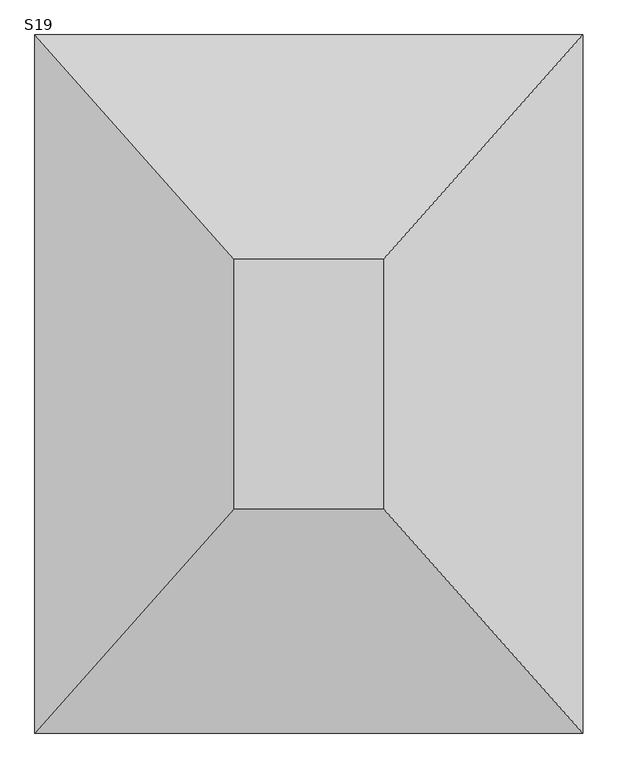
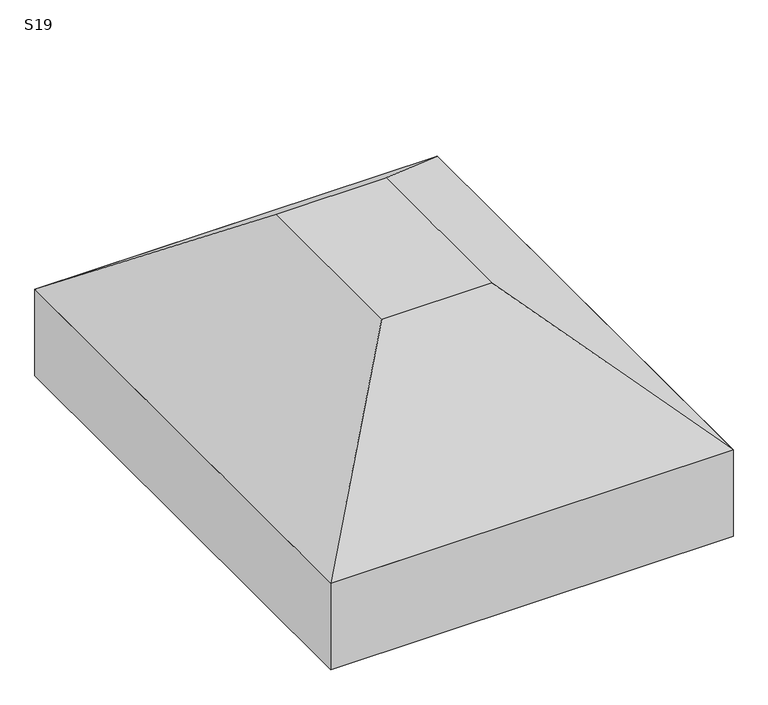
"""IFC4 building model written with IfcOpenShell, lengths in millimetres: fastener geometry, TQS - Sapata : S19."""

import ifcopenshell
import ifcopenshell.guid

model = None  # the IFC model being written
_history = None  # IfcOwnerHistory: only IFC2X3 demands one
_inside = {}  # id of a spatial element -> (the spatial element, [elements in it])
_under = {}  # id of a project, library or spatial element -> (it, [spatial elements below it])
_declared = {}  # id of a project -> (the project, [libraries it declares])
_typed = {}  # id of a type object -> (the type object, [elements of that type])
_made_of = {}  # id of a material, layer set ... -> (it, [elements and type objects made of it])


def new_model(schema):
    """Start an empty IFC model of exactly this schema.

    Asked for "IFC4X3", IfcOpenShell would pick the latest addendum, in which some entities
    have other attributes; the version numbers below select the first issue.
    IFC2X3 requires an IfcOwnerHistory on every rooted entity: one is made here for all.
    """
    global model, _history
    if schema == "IFC4X3":
        model = ifcopenshell.file(schema_version=(4, 3, 0, 0))
    else:
        model = ifcopenshell.file(schema=schema)
    _inside.clear()
    _under.clear()
    _declared.clear()
    _typed.clear()
    _made_of.clear()
    _history = None
    if model.schema == "IFC2X3":
        org = make("IfcOrganization", Name="unknown")
        user = make(
            "IfcPersonAndOrganization",
            ThePerson=make("IfcPerson", FamilyName="unknown"),
            TheOrganization=org,
        )
        app = make(
            "IfcApplication",
            ApplicationDeveloper=org,
            Version="unknown",
            ApplicationFullName="unknown",
            ApplicationIdentifier="unknown",
        )
        _history = make(
            "IfcOwnerHistory",
            OwningUser=user,
            OwningApplication=app,
            ChangeAction="ADDED",
            CreationDate=0,
        )
    return model


def make(cls, **values):
    """One entity of the class cls with the attributes given. An attribute that is None is left unset."""
    return model.create_entity(
        cls, **{name: value for name, value in values.items() if value is not None}
    )


def rooted(cls, **values):
    """An entity with a GlobalId (a new one), such as an element, a storey or a relation."""
    return make(cls, GlobalId=ifcopenshell.guid.new(), OwnerHistory=_history, **values)


def si_unit(unit_type, name, prefix=None):
    """IfcSIUnit, for example si_unit("LENGTHUNIT", "METRE", prefix="MILLI")."""
    return make("IfcSIUnit", UnitType=unit_type, Prefix=prefix, Name=name)


def assignment(units):
    """IfcUnitAssignment: the units of a project."""
    return None if units is None else make("IfcUnitAssignment", Units=units)


def point(xyz):
    """IfcCartesianPoint."""
    return None if xyz is None else make("IfcCartesianPoint", Coordinates=xyz)


def direction(xyz):
    """IfcDirection."""
    return None if xyz is None else make("IfcDirection", DirectionRatios=xyz)


def frame(location, z_axis=None, x_axis=None):
    """IfcAxis2Placement3D, a coordinate frame: its origin and axes. An axis left out is left unset."""
    return make(
        "IfcAxis2Placement3D",
        Location=point(location),
        Axis=direction(z_axis),
        RefDirection=direction(x_axis),
    )


def origin():
    """The frame at (0, 0, 0) with its axes left unset."""
    return frame((0.0, 0.0, 0.0))


def place(relative_to, where):
    """IfcLocalPlacement: puts the frame where relative to a parent placement (None: the world)."""
    return make(
        "IfcLocalPlacement", PlacementRelTo=relative_to, RelativePlacement=where
    )


def context(
    kind, dimensions, precision=None, world=None, true_north=None, identifier=None
):
    """IfcGeometricRepresentationContext, for example the 3D "Model" context."""
    return make(
        "IfcGeometricRepresentationContext",
        ContextIdentifier=identifier,
        ContextType=kind,
        CoordinateSpaceDimension=dimensions,
        Precision=precision,
        WorldCoordinateSystem=world,
        TrueNorth=true_north,
    )


def project(units=None, contexts=None):
    """IfcProject with its units and contexts."""
    return rooted(
        "IfcProject",
        Name="project",
        RepresentationContexts=contexts,
        UnitsInContext=assignment(units),
    )


def spatial(cls, under=None, at=None, **own):
    """A site, building, storey or space (cls), placed at a placement, below another one or the project."""
    s = rooted(cls, ObjectPlacement=at, **own)
    if under is not None:
        _under.setdefault(under.id(), (under, []))[1].append(s)
    return s


def polyline(points):
    """IfcPolyline through the points."""
    return make("IfcPolyline", Points=[point(p) for p in points])


def outline(outer, holes=None, kind="AREA"):
    """IfcArbitraryClosedProfileDef: a profile drawn as a closed curve; with holes, ...WithVoids."""
    if holes is None:
        return make("IfcArbitraryClosedProfileDef", ProfileType=kind, OuterCurve=outer)
    return make(
        "IfcArbitraryProfileDefWithVoids",
        ProfileType=kind,
        OuterCurve=outer,
        InnerCurves=holes,
    )


def extrude(swept, where, along, depth):
    """IfcExtrudedAreaSolid: the profile swept, set in the frame where, extruded along a direction by depth."""
    return make(
        "IfcExtrudedAreaSolid",
        SweptArea=swept,
        Position=where,
        ExtrudedDirection=direction(along),
        Depth=depth,
    )


def faces_of(points, faces, orient=None, outer=None):
    """IfcFace entities. A face is a list of loops; a loop is a list of indices into points, from 0.

    orient and outer hold one flag for each loop. By default every Orientation is true, the
    first loop of a face is its IfcFaceOuterBound and the others are IfcFaceBound.
    """
    made = []
    for i, loops in enumerate(faces):
        bounds = []
        for j, loop in enumerate(loops):
            is_outer = j == 0 if outer is None else outer[i][j]
            bounds.append(
                make(
                    "IfcFaceOuterBound" if is_outer else "IfcFaceBound",
                    Bound=make("IfcPolyLoop", Polygon=[points[k] for k in loop]),
                    Orientation=True if orient is None else orient[i][j],
                )
            )
        made.append(make("IfcFace", Bounds=bounds))
    return made


def faceted_brep(points, faces, orient=None, outer=None, voids=None):
    """IfcFacetedBrep: a solid bounded by flat faces; with voids (closed shells), ...WithVoids."""
    shared = [point(p) for p in points]
    hull = make("IfcClosedShell", CfsFaces=faces_of(shared, faces, orient, outer))
    if voids is None:
        return make("IfcFacetedBrep", Outer=hull)
    return make(
        "IfcFacetedBrepWithVoids",
        Outer=hull,
        Voids=[
            make(cls, CfsFaces=faces_of(shared, fs, o, b)) for cls, fs, o, b in voids
        ],
    )


def shape(context_of_items, identifier, shape_type, items):
    """IfcShapeRepresentation: the items that make up one representation, for example the "Body"."""
    return make(
        "IfcShapeRepresentation",
        ContextOfItems=context_of_items,
        RepresentationIdentifier=identifier,
        RepresentationType=shape_type,
        Items=items,
    )


def source(mapping_origin, context_of_items, identifier, shape_type, items):
    """IfcRepresentationMap: a shape defined once, which mapped items show again and again."""
    return make(
        "IfcRepresentationMap",
        MappingOrigin=mapping_origin,
        MappedRepresentation=shape(context_of_items, identifier, shape_type, items),
    )


def transform(
    local_origin,
    x_axis=None,
    y_axis=None,
    z_axis=None,
    scale=None,
    scale2=None,
    scale3=None,
    uniform=True,
):
    """IfcCartesianTransformationOperator3D, or its non-uniform kind. x_axis, y_axis, z_axis: its Axis1, 2, 3."""
    if uniform:
        return make(
            "IfcCartesianTransformationOperator3D",
            Axis1=direction(x_axis),
            Axis2=direction(y_axis),
            LocalOrigin=point(local_origin),
            Scale=scale,
            Axis3=direction(z_axis),
        )
    return make(
        "IfcCartesianTransformationOperator3DnonUniform",
        Axis1=direction(x_axis),
        Axis2=direction(y_axis),
        LocalOrigin=point(local_origin),
        Scale=scale,
        Axis3=direction(z_axis),
        Scale2=scale2,
        Scale3=scale3,
    )


def mapped(mapping_source, mapping_target):
    """IfcMappedItem: shows the shape of a source again, moved by a transform."""
    return make(
        "IfcMappedItem", MappingSource=mapping_source, MappingTarget=mapping_target
    )


def made_of(thing, what):
    """Note that an element or type object is made of a material, layer set ...; save() writes the relation."""
    if what is not None:
        _made_of.setdefault(what.id(), (what, []))[1].append(thing)
    return thing


def element(
    cls,
    number,
    at=None,
    inside=None,
    cuts=None,
    type_object=None,
    material=None,
    context=None,
    identifier="Body",
    shape_type=None,
    held_by="IfcProductDefinitionShape",
    body=None,
    shapes=None,
    **own,
):
    """One element of the class cls, such as IfcWall. Its Tag is "e" and its number.

    at: its placement. inside: the storey or other place that contains it. cuts: it is an
    opening in that element (IfcRelVoidsElement). A single representation is given by context,
    identifier, shape_type and body (its items); several are given by shapes. held_by: the class
    of the entity that holds the representations. save() writes the other relations.
    """
    e = rooted(cls, Tag="e%d" % number, ObjectPlacement=at, **own)
    if body is not None:
        shapes = [shape(context, identifier, shape_type, body)]
    if shapes is not None:
        e.Representation = make(held_by, Representations=shapes)
    if inside is not None:
        _inside.setdefault(inside.id(), (inside, []))[1].append(e)
    if cuts is not None:
        rooted(
            "IfcRelVoidsElement", RelatingBuildingElement=cuts, RelatedOpeningElement=e
        )
    if type_object is not None:
        _typed.setdefault(type_object.id(), (type_object, []))[1].append(e)
    return made_of(e, material)


def aggregate(whole, parts):
    """IfcRelAggregates: a whole, such as a stair, and the parts it consists of."""
    return rooted("IfcRelAggregates", RelatingObject=whole, RelatedObjects=parts)


def save(model, path):
    """Write the relations noted so far, then the file.

    IfcRelAggregates (storeys below a building ...), IfcRelContainedInSpatialStructure (elements
    in a storey), IfcRelDefinesByType, IfcRelAssociatesMaterial and IfcRelDeclares: one each for
    every whole, place, type object, material and project.
    """
    for whole, parts in _under.values():
        aggregate(whole, parts)
    for where, things in _inside.values():
        rooted(
            "IfcRelContainedInSpatialStructure",
            RelatedElements=things,
            RelatingStructure=where,
        )
    for kind, things in _typed.values():
        rooted("IfcRelDefinesByType", RelatedObjects=things, RelatingType=kind)
    for what, things in _made_of.values():
        rooted("IfcRelAssociatesMaterial", RelatedObjects=things, RelatingMaterial=what)
    for by, libraries in _declared.values():
        rooted("IfcRelDeclares", RelatingContext=by, RelatedDefinitions=libraries)
    model.write(path)


def s19_11b22e92(model_context):
    return source(origin(), model_context, "Body", "SolidModel", [
        faceted_brep([(-50.0, 50.0, 0.0), (-350.0, 50.0, 0.0), (-350.0, -450.0, 0.0), (-50.0, -450.0, 0.0), (350.0, 500.0, -350.0), (350.0, -900.0, -350.0), (-750.0, -900.0, -350.0), (-750.0, 500.0, -350.0)], [[[0, 1, 2, 3]], [[4, 5, 6, 7]], [[4, 7, 1, 0]], [[7, 6, 2, 1]], [[6, 5, 3, 2]], [[5, 4, 0, 3]]]),
        extrude(outline(polyline([(350.0, 500.0), (350.0, -900.0), (-750.0, -900.0), (-750.0, 500.0), (350.0, 500.0)])), frame((0.0, 0.0, -600.0), z_axis=(0.0, 0.0, 1.0), x_axis=(1.0, 0.0, 0.0)), (0.0, 0.0, 1.0), 250.0),
    ])


if __name__ == "__main__":
    model = new_model("IFC4")
    model_context = context("Model", 3, world=origin())
    ifc_project = project(units=[si_unit("LENGTHUNIT", "METRE", prefix="MILLI")], contexts=[model_context])
    site = spatial("IfcSite", under=ifc_project)
    building = spatial("IfcBuilding", under=site)
    placement = place(None, origin())
    s19_shape = s19_11b22e92(model_context)
    element("IfcFastener", 1, ObjectType="TQS - Sapata : S19", at=placement, inside=building, context=model_context, shape_type="MappedRepresentation", body=[
        mapped(s19_shape, transform((0.0, 0.0, 0.0), x_axis=(1.0, 0.0, 0.0), y_axis=(0.0, 1.0, 0.0), z_axis=(0.0, 0.0, 1.0))),
    ])
    save(model, "model.ifc")
